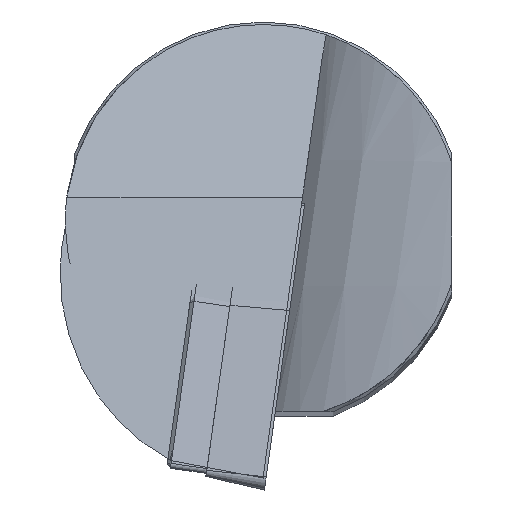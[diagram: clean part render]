
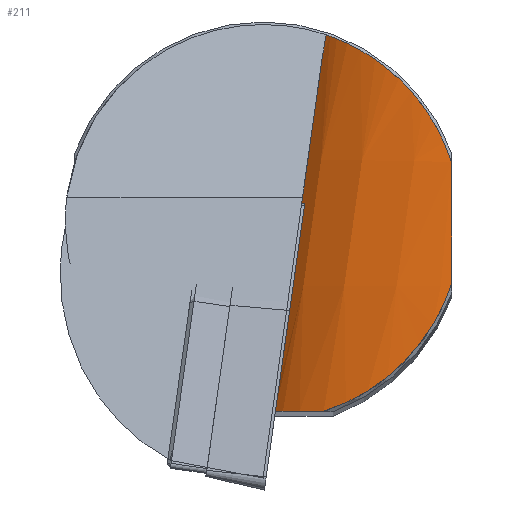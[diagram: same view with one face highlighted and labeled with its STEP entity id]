
A CAD part, top view. The second image highlights one B-rep face of the part: STEP entity #211.
In plain terms, the highlighted free-form (B-spline) face has degree [3, 3] with [4, 15] control points.
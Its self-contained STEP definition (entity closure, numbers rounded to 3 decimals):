
#101=B_SPLINE_SURFACE_WITH_KNOTS('',3,3,((#1360,#1361,#1362,#1363,#1364,
#1365,#1366,#1367,#1368,#1369,#1370,#1371,#1372,#1373,#1374),(#1375,#1376,
#1377,#1378,#1379,#1380,#1381,#1382,#1383,#1384,#1385,#1386,#1387,#1388,
#1389),(#1390,#1391,#1392,#1393,#1394,#1395,#1396,#1397,#1398,#1399,#1400,
#1401,#1402,#1403,#1404),(#1405,#1406,#1407,#1408,#1409,#1410,#1411,#1412,
#1413,#1414,#1415,#1416,#1417,#1418,#1419)),.UNSPECIFIED.,.F.,.F.,.F.,(4,
4),(4,1,2,1,2,1,1,2,1,4),(0.,1.),(0.,0.187,0.25,0.373,
0.5,0.56,0.707,0.75,0.853,1.),.UNSPECIFIED.);
#104=B_SPLINE_CURVE_WITH_KNOTS('',3,(#1300,#1301,#1302,#1303,#1304,#1305),
 .UNSPECIFIED.,.F.,.F.,(4,2,4),(0.,0.5,1.),.UNSPECIFIED.);
#107=B_SPLINE_CURVE_WITH_KNOTS('',3,(#1332,#1333,#1334,#1335,#1336,#1337,
#1338,#1339),.UNSPECIFIED.,.F.,.F.,(4,1,2,1,4),(0.,0.231,0.485,
0.616,1.),.UNSPECIFIED.);
#108=B_SPLINE_CURVE_WITH_KNOTS('',3,(#1340,#1341,#1342,#1343),.UNSPECIFIED.,
 .F.,.F.,(4,4),(0.,1.),.UNSPECIFIED.);
#109=B_SPLINE_CURVE_WITH_KNOTS('',3,(#1345,#1346,#1347,#1348,#1349,#1350,
#1351,#1352,#1353,#1354),.UNSPECIFIED.,.F.,.F.,(4,2,2,2,4),(0.,0.25,0.5,
0.75,1.),.UNSPECIFIED.);
#110=B_SPLINE_CURVE_WITH_KNOTS('',3,(#1356,#1357,#1358,#1359),.UNSPECIFIED.,
 .F.,.F.,(4,4),(0.,1.),.UNSPECIFIED.);
#166=FACE_OUTER_BOUND('',#303,.T.);
#211=ADVANCED_FACE('',(#166),#101,.T.);
#303=EDGE_LOOP('',(#472,#473,#474,#475,#476,#477));
#472=ORIENTED_EDGE('',*,*,#686,.T.);
#473=ORIENTED_EDGE('',*,*,#706,.F.);
#474=ORIENTED_EDGE('',*,*,#696,.T.);
#475=ORIENTED_EDGE('',*,*,#707,.F.);
#476=ORIENTED_EDGE('',*,*,#708,.T.);
#477=ORIENTED_EDGE('',*,*,#709,.F.);
#597=VERTEX_POINT('',#1272);
#598=VERTEX_POINT('',#1274);
#606=VERTEX_POINT('',#1306);
#607=VERTEX_POINT('',#1307);
#614=VERTEX_POINT('',#1344);
#615=VERTEX_POINT('',#1355);
#686=EDGE_CURVE('',#598,#597,#781,.T.);
#696=EDGE_CURVE('',#606,#607,#104,.T.);
#706=EDGE_CURVE('',#606,#597,#107,.T.);
#707=EDGE_CURVE('',#614,#607,#108,.T.);
#708=EDGE_CURVE('',#614,#615,#109,.T.);
#709=EDGE_CURVE('',#598,#615,#110,.T.);
#781=LINE('',#1273,#843);
#843=VECTOR('',#1058,1.);
#1058=DIRECTION('',(-0.139,-0.99,0.));
#1272=CARTESIAN_POINT('',(0.74,-15.,-18.774));
#1273=CARTESIAN_POINT('',(-0.09,-20.9,-18.774));
#1274=CARTESIAN_POINT('',(4.696,13.154,-18.774));
#1300=CARTESIAN_POINT('',(4.802,-15.,-32.435));
#1301=CARTESIAN_POINT('',(6.44,-14.476,-34.833));
#1302=CARTESIAN_POINT('',(8.532,-13.487,-36.835));
#1303=CARTESIAN_POINT('',(12.381,-10.07,-39.565));
#1304=CARTESIAN_POINT('',(14.11,-7.583,-40.331));
#1305=CARTESIAN_POINT('',(15.,-4.802,-40.609));
#1306=CARTESIAN_POINT('',(4.802,-15.,-32.435));
#1307=CARTESIAN_POINT('',(15.,-4.802,-40.609));
#1332=CARTESIAN_POINT('',(4.802,-15.,-32.435));
#1333=CARTESIAN_POINT('',(4.175,-15.,-31.474));
#1334=CARTESIAN_POINT('',(3.001,-15.,-29.364));
#1335=CARTESIAN_POINT('',(2.146,-15.,-27.133));
#1336=CARTESIAN_POINT('',(1.61,-15.,-25.345));
#1337=CARTESIAN_POINT('',(0.989,-15.,-22.937));
#1338=CARTESIAN_POINT('',(0.74,-15.,-20.52));
#1339=CARTESIAN_POINT('',(0.74,-15.,-18.774));
#1340=CARTESIAN_POINT('',(15.,4.802,-39.8));
#1341=CARTESIAN_POINT('',(15.,1.602,-40.089));
#1342=CARTESIAN_POINT('',(15.,-1.599,-40.358));
#1343=CARTESIAN_POINT('',(15.,-4.802,-40.609));
#1344=CARTESIAN_POINT('',(15.,4.802,-39.8));
#1345=CARTESIAN_POINT('',(15.,4.802,-39.8));
#1346=CARTESIAN_POINT('',(14.369,6.773,-39.217));
#1347=CARTESIAN_POINT('',(13.357,8.535,-38.321));
#1348=CARTESIAN_POINT('',(11.106,11.31,-35.865));
#1349=CARTESIAN_POINT('',(9.889,12.324,-34.32));
#1350=CARTESIAN_POINT('',(7.784,13.751,-30.836));
#1351=CARTESIAN_POINT('',(6.886,14.183,-28.906));
#1352=CARTESIAN_POINT('',(5.569,14.75,-24.831));
#1353=CARTESIAN_POINT('',(5.158,14.882,-22.714));
#1354=CARTESIAN_POINT('',(5.01,14.932,-20.552));
#1355=CARTESIAN_POINT('',(5.01,14.932,-20.552));
#1356=CARTESIAN_POINT('',(4.696,13.154,-18.774));
#1357=CARTESIAN_POINT('',(4.78,13.748,-19.368));
#1358=CARTESIAN_POINT('',(4.885,14.341,-19.961));
#1359=CARTESIAN_POINT('',(5.01,14.932,-20.552));
#1360=CARTESIAN_POINT('',(5.675,20.115,-18.774));
#1361=CARTESIAN_POINT('',(5.675,20.115,-20.52));
#1362=CARTESIAN_POINT('',(5.925,20.115,-22.937));
#1363=CARTESIAN_POINT('',(6.545,20.115,-25.345));
#1364=CARTESIAN_POINT('',(7.081,20.115,-27.133));
#1365=CARTESIAN_POINT('',(7.989,20.115,-29.501));
#1366=CARTESIAN_POINT('',(9.256,20.115,-31.732));
#1367=CARTESIAN_POINT('',(10.328,20.115,-33.314));
#1368=CARTESIAN_POINT('',(11.581,20.115,-35.019));
#1369=CARTESIAN_POINT('',(13.343,20.115,-36.873));
#1370=CARTESIAN_POINT('',(14.807,20.115,-38.098));
#1371=CARTESIAN_POINT('',(15.956,20.115,-39.009));
#1372=CARTESIAN_POINT('',(17.993,20.115,-40.422));
#1373=CARTESIAN_POINT('',(20.15,20.115,-41.492));
#1374=CARTESIAN_POINT('',(21.425,20.115,-42.));
#1375=CARTESIAN_POINT('',(3.753,6.443,-18.774));
#1376=CARTESIAN_POINT('',(3.753,6.443,-20.52));
#1377=CARTESIAN_POINT('',(4.003,6.443,-22.937));
#1378=CARTESIAN_POINT('',(4.624,6.443,-25.345));
#1379=CARTESIAN_POINT('',(5.16,6.443,-27.133));
#1380=CARTESIAN_POINT('',(6.067,6.443,-29.501));
#1381=CARTESIAN_POINT('',(7.334,6.443,-31.732));
#1382=CARTESIAN_POINT('',(8.407,6.443,-33.314));
#1383=CARTESIAN_POINT('',(9.66,6.443,-35.019));
#1384=CARTESIAN_POINT('',(11.421,6.443,-36.873));
#1385=CARTESIAN_POINT('',(12.885,6.443,-38.098));
#1386=CARTESIAN_POINT('',(14.035,6.443,-39.009));
#1387=CARTESIAN_POINT('',(16.071,6.443,-40.422));
#1388=CARTESIAN_POINT('',(18.229,6.443,-41.492));
#1389=CARTESIAN_POINT('',(19.503,6.443,-42.));
#1390=CARTESIAN_POINT('',(1.832,-7.228,-18.774));
#1391=CARTESIAN_POINT('',(1.832,-7.228,-20.52));
#1392=CARTESIAN_POINT('',(2.082,-7.228,-22.937));
#1393=CARTESIAN_POINT('',(2.702,-7.228,-25.345));
#1394=CARTESIAN_POINT('',(3.238,-7.228,-27.133));
#1395=CARTESIAN_POINT('',(4.146,-7.228,-29.501));
#1396=CARTESIAN_POINT('',(5.413,-7.228,-31.732));
#1397=CARTESIAN_POINT('',(6.485,-7.228,-33.314));
#1398=CARTESIAN_POINT('',(7.738,-7.228,-35.019));
#1399=CARTESIAN_POINT('',(9.5,-7.228,-36.873));
#1400=CARTESIAN_POINT('',(10.964,-7.228,-38.098));
#1401=CARTESIAN_POINT('',(12.113,-7.228,-39.009));
#1402=CARTESIAN_POINT('',(14.15,-7.228,-40.422));
#1403=CARTESIAN_POINT('',(16.307,-7.228,-41.492));
#1404=CARTESIAN_POINT('',(17.582,-7.228,-42.));
#1405=CARTESIAN_POINT('',(-0.09,-20.9,-18.774));
#1406=CARTESIAN_POINT('',(-0.09,-20.9,-20.52));
#1407=CARTESIAN_POINT('',(0.16,-20.9,-22.937));
#1408=CARTESIAN_POINT('',(0.781,-20.9,-25.345));
#1409=CARTESIAN_POINT('',(1.317,-20.9,-27.133));
#1410=CARTESIAN_POINT('',(2.224,-20.9,-29.501));
#1411=CARTESIAN_POINT('',(3.492,-20.9,-31.732));
#1412=CARTESIAN_POINT('',(4.564,-20.9,-33.314));
#1413=CARTESIAN_POINT('',(5.817,-20.9,-35.019));
#1414=CARTESIAN_POINT('',(7.579,-20.9,-36.873));
#1415=CARTESIAN_POINT('',(9.042,-20.9,-38.098));
#1416=CARTESIAN_POINT('',(10.192,-20.9,-39.009));
#1417=CARTESIAN_POINT('',(12.229,-20.9,-40.422));
#1418=CARTESIAN_POINT('',(14.386,-20.9,-41.492));
#1419=CARTESIAN_POINT('',(15.66,-20.9,-42.));
